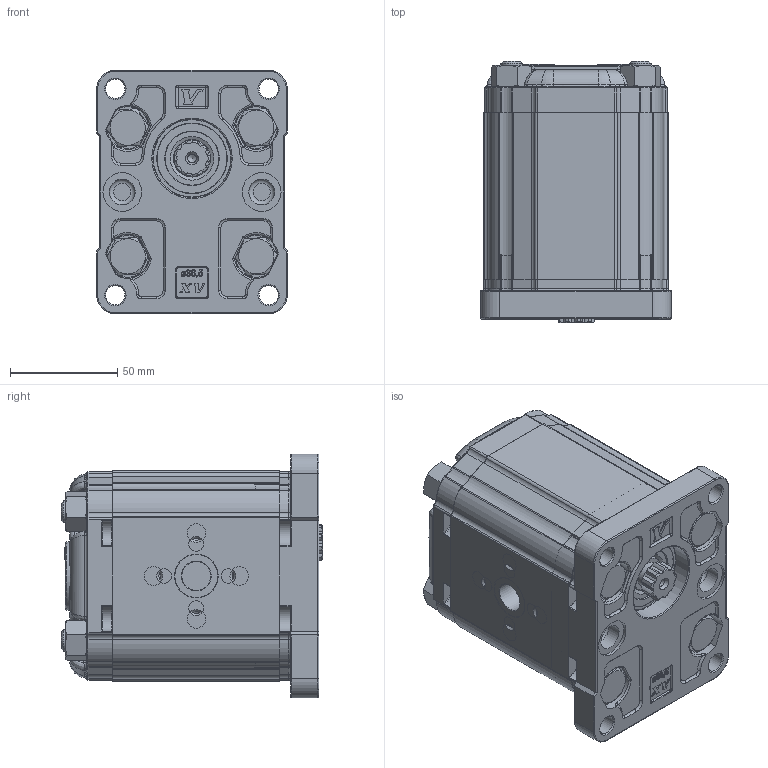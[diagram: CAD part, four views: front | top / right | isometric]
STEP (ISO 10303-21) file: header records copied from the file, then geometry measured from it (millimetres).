
FILE_DESCRIPTION( ( 'Unknown' ), '1' );
FILE_NAME( 'P:/montaggio_easy/output/STP/X2F5501QPOA.stp', 'Unknown', ( 'Unknown' ), ( 'Unknown' ), 'PSStep 14.0', 'Unknown', ' ' );
FILE_SCHEMA( ( 'AUTOMOTIVE_DESIGN { 1 0 10303 214 1 1 1 1 }' ) );
Length unit declared in the file: millimetre
Products named in the file (5): Assem1; X2F01; 2Q; X2POH78; XF201-A
Bounding box: 89 x 122 x 113.7 mm (x, y, z)
Surface area: 231705.6 mm2
Topology: 8 solids, 10 shells, 3738 faces, 9674 edges, 6210 vertices
Faces by surface type: plane 1716, cylinder 966, extrusion 380, torus 332, cone 198, bspline 134, sphere 12
Full cylindrical faces by diameter (mm): 4 x2, 4.917 x8, 6.647 x8, 9 x8, 10 x8, 11.5 x8, 12 x4, 12.5 x2, 13.5 x2, 16 x8, 17.42 x2, 18 x4, 20 x2, 23 x2, 25 x2, 32.5 x2, 36.5 x2
Entity records: 79064 total; most frequent: CARTESIAN_POINT 19250, ORIENTED_EDGE 9398, DIRECTION 8922, EDGE_CURVE 4699, VERTEX_POINT 3071, AXIS2_PLACEMENT_3D 3026, VECTOR 2870, LINE 2680
